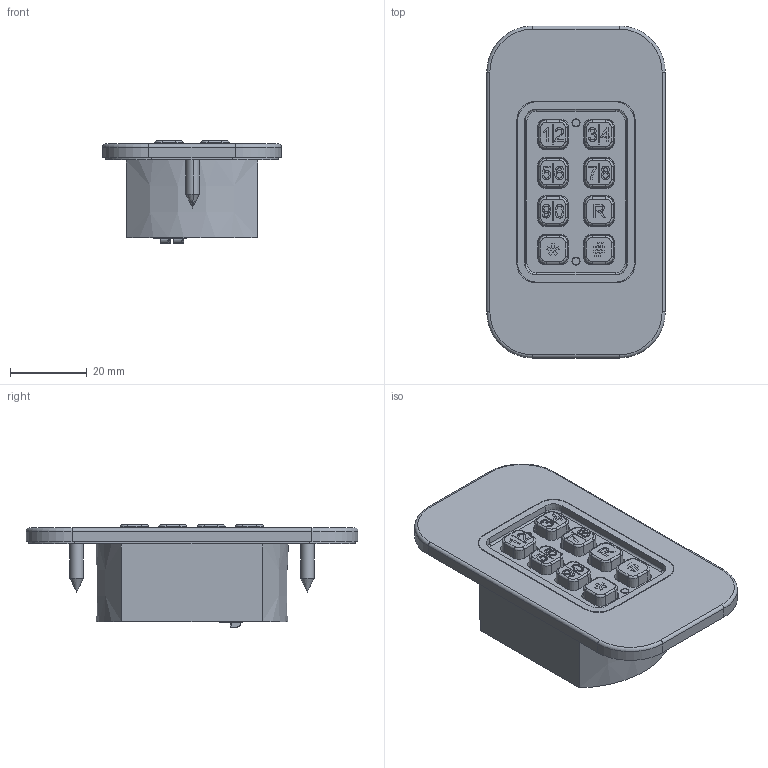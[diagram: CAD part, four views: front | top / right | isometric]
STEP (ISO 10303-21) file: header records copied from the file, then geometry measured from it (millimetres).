
FILE_DESCRIPTION (( 'STEP AP214' ), '1' );
FILE_NAME ('S11190-00001_ENTRAcode+_FD.STEP', '2019-04-29T07:55:54', ( '' ), ( '' ), 'SwSTEP 2.0', 'SolidWorks 2017', '' );
FILE_SCHEMA (( 'AUTOMOTIVE_DESIGN' ));
Length unit declared in the file: millimetre
Products named in the file (36): 1X06_RM2010_1X06_RM20_S_X_Stiftleiste10; 90838; CN1JX40_CN1JX4_S_R_Netzwerk0; 1X06_RM203_1X06_RM20_S_X_Stiftleiste3; 10408V000_Abdeckrahmen_Blechtiefziehteil_CoverFrame_Sheetmetal_Deep-Drawn_ENTRAsys_FD; ENTRAsys SOMloq2 Main Board Rev5EW1; 1X06_RM207_1X06_RM20_S_X_Stiftleiste7; S11190-00001_ENTRAcode+_FD; 1X06_RM206_1X06_RM20_S_X_Stiftleiste6; 50737_Blechschraube_ISO7050_A2_3,5x16; PCB_5X5_V012_PCB_5X5_V01_S_Taster2; 06030_0603_S_LED0; 412_B_691412120002B; PCB_5X5_V011_PCB_5X5_V01_S_Taster1; ENTRA_FD_Klebestreifen_3M93017LE; pcbs10479_tfb_reva; 1X06_RM2012_1X06_RM20_S_X_Stiftleiste12; 90859; 1X06_RM209_1X06_RM20_S_X_Stiftleiste9; 90688; 1X3_RM127_SMD0_1X3_RM127_SMD_S_X_Buchsenleiste0; 90398_Kernmodul; 90694; 1X06_RM205_1X06_RM20_S_X_Stiftleiste5; 1X06_RM2011_1X06_RM20_S_X_Stiftleiste11; 1X06_RM208_1X06_RM20_S_X_Stiftleiste8; ENTRAcode_Platine_komplett_2017_06; Stecker_Wanne; 1X06_RM204_1X06_RM20_S_X_Stiftleiste4; 1X06_RM201_1X06_RM20_S_X_Stiftleiste1; 90397; 1X06_RM202_1X06_RM20_S_X_Stiftleiste2; R04020_R0402_S_RCL0; 1X06_RM2013_1X06_RM20_S_X_Stiftleiste13; 90839
Assembly tree (75 placements, depth 5):
  S11190-00001_ENTRAcode+_FD
    90838
      10408V000_Abdeckrahmen_Blechtiefziehteil_CoverFrame_Sheetmetal_Deep-Drawn_ENTRAsys_FD
      90839  x2
      ENTRA_FD_Klebestreifen_3M93017LE  x2
    50737_Blechschraube_ISO7050_A2_3,5x16  x2
    90694
      90398_Kernmodul
      90397
      90688  x4
      ENTRAcode_Platine_komplett_2017_06
        ENTRAsys SOMloq2 Main Board Rev5EW1
        Stecker_Wanne
          412_B_691412120002B
          90859
        pcbs10479_tfb_reva
          pcbs10479_tfb_reva
          06030_0603_S_LED0  x5
          CN1JX40_CN1JX4_S_R_Netzwerk0  x2
          R04020_R0402_S_RCL0  x3
          PCB_5X5_V011_PCB_5X5_V01_S_Taster1  x8
          PCB_5X5_V012_PCB_5X5_V01_S_Taster2  x8
          1X06_RM201_1X06_RM20_S_X_Stiftleiste1  x2
          1X06_RM202_1X06_RM20_S_X_Stiftleiste2  x2
          1X06_RM203_1X06_RM20_S_X_Stiftleiste3  x2
          1X06_RM204_1X06_RM20_S_X_Stiftleiste4  x2
          1X06_RM205_1X06_RM20_S_X_Stiftleiste5  x2
          1X06_RM206_1X06_RM20_S_X_Stiftleiste6  x2
          1X06_RM207_1X06_RM20_S_X_Stiftleiste7  x2
          1X06_RM208_1X06_RM20_S_X_Stiftleiste8  x2
          1X06_RM209_1X06_RM20_S_X_Stiftleiste9  x2
          1X06_RM2010_1X06_RM20_S_X_Stiftleiste10  x2
          1X06_RM2011_1X06_RM20_S_X_Stiftleiste11  x2
          1X06_RM2012_1X06_RM20_S_X_Stiftleiste12  x2
          1X06_RM2013_1X06_RM20_S_X_Stiftleiste13  x2
          1X3_RM127_SMD0_1X3_RM127_SMD_S_X_Buchsenleiste0
Bounding box: 46.5 x 86.5 x 26.71 mm (x, y, z)
Volume: 20184.1 mm3; surface area: 41868.1 mm2
Topology: 68 solids, 194 shells, 3224 faces, 8145 edges, 5298 vertices
Faces by surface type: plane 1939, cylinder 558, bspline 326, cone 255, torus 139, sphere 7
Entity records: 113875 total; most frequent: CARTESIAN_POINT 33255, ORIENTED_EDGE 13331, DIRECTION 12879, EDGE_CURVE 7069, LINE 4815, VECTOR 4815, VERTEX_POINT 4602, AXIS2_PLACEMENT_3D 4032
